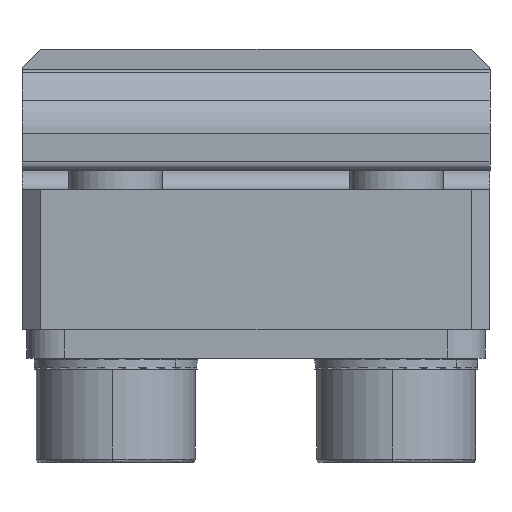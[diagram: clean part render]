
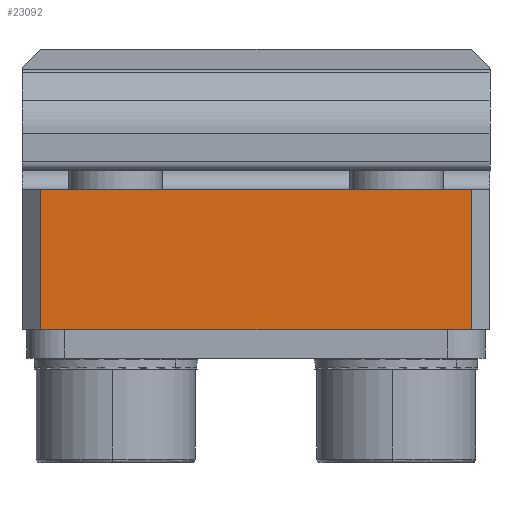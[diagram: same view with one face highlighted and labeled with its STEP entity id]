
A CAD part, front view. The second image highlights one B-rep face of the part: STEP entity #23092.
In plain terms, the highlighted planar face has unit normal (0, -1, 0).
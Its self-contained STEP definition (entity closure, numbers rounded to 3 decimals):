
#1120 = DIRECTION ( 'NONE',  ( -1., 0., 0. ) ) ;
#1337 = VECTOR ( 'NONE', #5194, 1000. ) ;
#1439 = AXIS2_PLACEMENT_3D ( 'NONE', #21963, #10082, #23952 ) ;
#2450 = EDGE_CURVE ( 'NONE', #23405, #3153, #18588, .T. ) ;
#2548 = VECTOR ( 'NONE', #21921, 1000. ) ;
#3153 = VERTEX_POINT ( 'NONE', #21260 ) ;
#4686 = ORIENTED_EDGE ( 'NONE', *, *, #23338, .T. ) ;
#5194 = DIRECTION ( 'NONE',  ( 0., 0., 1. ) ) ;
#7161 = EDGE_LOOP ( 'NONE', ( #12672, #8696, #4686, #20483 ) ) ;
#7725 = VERTEX_POINT ( 'NONE', #25554 ) ;
#8049 = CARTESIAN_POINT ( 'NONE',  ( 16.048, -19.802, -7.5 ) ) ;
#8696 = ORIENTED_EDGE ( 'NONE', *, *, #16003, .T. ) ;
#10069 = DIRECTION ( 'NONE',  ( 0., 0., -1. ) ) ;
#10082 = DIRECTION ( 'NONE',  ( 0., -1., 0. ) ) ;
#10470 = LINE ( 'NONE', #10854, #25677 ) ;
#10854 = CARTESIAN_POINT ( 'NONE',  ( 16.048, -19.802, 0. ) ) ;
#11997 = PLANE ( 'NONE',  #1439 ) ;
#12672 = ORIENTED_EDGE ( 'NONE', *, *, #22577, .T. ) ;
#13019 = CARTESIAN_POINT ( 'NONE',  ( 27.548, -19.802, -3.75 ) ) ;
#13594 = FACE_OUTER_BOUND ( 'NONE', #7161, .T. ) ;
#14197 = VERTEX_POINT ( 'NONE', #21944 ) ;
#16003 = EDGE_CURVE ( 'NONE', #7725, #14197, #22388, .T. ) ;
#17261 = CARTESIAN_POINT ( 'NONE',  ( 4.548, -19.802, 0. ) ) ;
#17716 = LINE ( 'NONE', #8049, #2548 ) ;
#18588 = LINE ( 'NONE', #21605, #20824 ) ;
#20483 = ORIENTED_EDGE ( 'NONE', *, *, #2450, .T. ) ;
#20824 = VECTOR ( 'NONE', #10069, 1000. ) ;
#21260 = CARTESIAN_POINT ( 'NONE',  ( 4.548, -19.802, -7.5 ) ) ;
#21605 = CARTESIAN_POINT ( 'NONE',  ( 4.548, -19.802, -3.75 ) ) ;
#21921 = DIRECTION ( 'NONE',  ( 1., 0., 0. ) ) ;
#21944 = CARTESIAN_POINT ( 'NONE',  ( 27.548, -19.802, 0. ) ) ;
#21963 = CARTESIAN_POINT ( 'NONE',  ( 4.548, -19.802, 0. ) ) ;
#22388 = LINE ( 'NONE', #13019, #1337 ) ;
#22577 = EDGE_CURVE ( 'NONE', #3153, #7725, #17716, .T. ) ;
#23092 = ADVANCED_FACE ( 'NONE', ( #13594 ), #11997, .T. ) ;
#23338 = EDGE_CURVE ( 'NONE', #14197, #23405, #10470, .T. ) ;
#23405 = VERTEX_POINT ( 'NONE', #17261 ) ;
#23952 = DIRECTION ( 'NONE',  ( 0., 0., -1. ) ) ;
#25554 = CARTESIAN_POINT ( 'NONE',  ( 27.548, -19.802, -7.5 ) ) ;
#25677 = VECTOR ( 'NONE', #1120, 1000. ) ;
